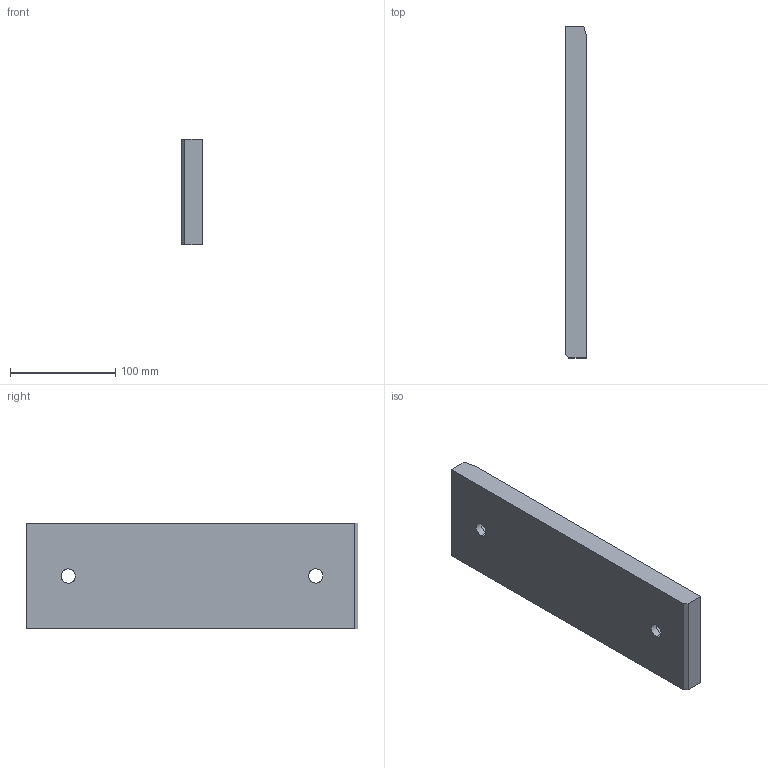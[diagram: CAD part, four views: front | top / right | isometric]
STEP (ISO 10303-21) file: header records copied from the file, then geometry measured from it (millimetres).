
FILE_DESCRIPTION(('CATIA V5 STEP Exchange'),'2;1');
FILE_NAME('C:\Users\borellobunino\Desktop\3D X SITO CF\A915\GSB_OILLESS_G22501100315\STEP-2.03\A915-100X315.stp','2019-07-14T13:40:05+00:00',('none'),('none'),'CATIA Version 5 Release 20 GA (IN-10)','CATIA V5 STEP AP203','none');
FILE_SCHEMA(('CONFIG_CONTROL_DESIGN'));
Length unit declared in the file: millimetre
Products named in the file (1): A915-100X315
Bounding box: 20 x 315 x 100 mm (x, y, z)
Volume: 617777.3 mm3; surface area: 80656 mm2
Topology: 1 solids, 1 shells, 23 faces, 73 edges, 54 vertices
Faces by surface type: plane 10, cylinder 9, torus 4
Entity records: 1057 total; most frequent: CARTESIAN_POINT 375, ORIENTED_EDGE 146, DIRECTION 103, EDGE_CURVE 73, AXIS2_PLACEMENT_3D 54, VERTEX_POINT 54, CIRCLE 30, EDGE_LOOP 29
